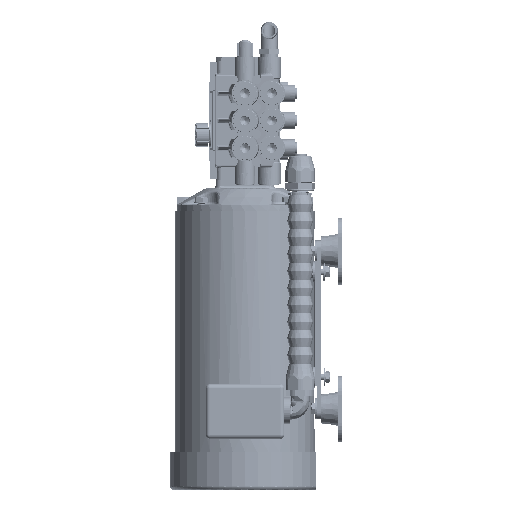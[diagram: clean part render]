
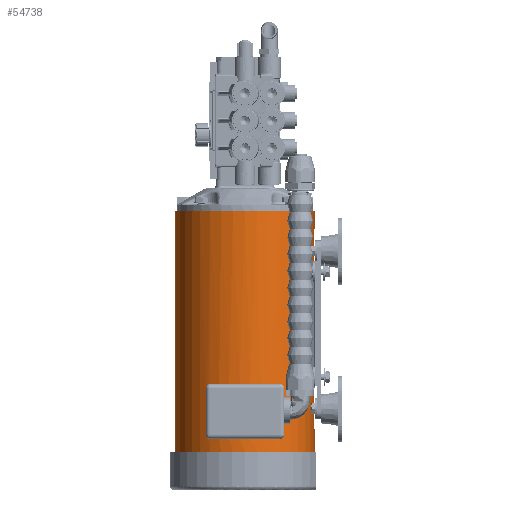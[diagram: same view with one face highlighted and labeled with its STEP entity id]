
A CAD part, left-side view. The second image highlights one B-rep face of the part: STEP entity #54738.
In plain terms, the highlighted cylindrical face has radius 84.074 mm (diameter 168.148 mm), a full revolution.
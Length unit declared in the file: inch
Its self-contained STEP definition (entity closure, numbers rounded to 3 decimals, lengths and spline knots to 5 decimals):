
#1548=B_SPLINE_CURVE_WITH_KNOTS($,3,(#81948,#81949,#81950,#81951,#81952,
#81953,#81954,#81955,#81956,#81957),.UNSPECIFIED.,.F.,.F.,(4,2,2,2,4),(-0.83662,
-0.60901,-0.3814,-0.1907,0.),
 .UNSPECIFIED.);
#1549=B_SPLINE_CURVE_WITH_KNOTS($,3,(#81961,#81962,#81963,#81964,#81965,
#81966,#81967,#81968,#81969,#81970),.UNSPECIFIED.,.F.,.F.,(4,2,2,2,4),(-3.31355,
-3.11351,-2.91347,-2.69511,-2.47675),
 .UNSPECIFIED.);
#1550=B_SPLINE_CURVE_WITH_KNOTS($,3,(#81974,#81975,#81976,#81977,#81978,
#81979,#81980,#81981,#81982,#81983),.UNSPECIFIED.,.F.,.F.,(4,2,2,2,4),(-2.49351,
-2.2659,-2.03829,-1.84759,-1.65689),
 .UNSPECIFIED.);
#1551=B_SPLINE_CURVE_WITH_KNOTS($,3,(#81986,#81987,#81988,#81989,#81990,
#81991,#81992,#81993,#81994,#81995),.UNSPECIFIED.,.F.,.F.,(4,2,2,2,4),(-1.65666,
-1.46596,-1.27526,-1.04765,-0.82004),
 .UNSPECIFIED.);
#3612=FACE_BOUND($,#14386,.T.);
#3613=FACE_BOUND($,#14387,.T.);
#3614=FACE_BOUND($,#14388,.T.);
#3615=FACE_BOUND($,#14389,.T.);
#4673=LINE($,#81959,#7783);
#4674=LINE($,#81985,#7784);
#4675=LINE($,#82004,#7785);
#4676=LINE($,#82007,#7786);
#7783=VECTOR($,#65220,2.2);
#7784=VECTOR($,#65223,2.2);
#7785=VECTOR($,#65230,5.94);
#7786=VECTOR($,#65233,5.94);
#14386=EDGE_LOOP($,(#34947,#34948,#34949,#34950,#34951,#34952,#34953,#34954));
#14387=EDGE_LOOP($,(#34955));
#14388=EDGE_LOOP($,(#34956));
#14389=EDGE_LOOP($,(#34957,#34958,#34959,#34960));
#18938=CIRCLE($,#58398,3.31);
#18939=CIRCLE($,#58399,3.31);
#18940=CIRCLE($,#58400,3.31);
#18941=CIRCLE($,#58401,3.31);
#18942=CIRCLE($,#58402,3.31);
#18943=CIRCLE($,#58403,3.31);
#22261=VERTEX_POINT($,#81944);
#22262=VERTEX_POINT($,#81945);
#22263=VERTEX_POINT($,#81947);
#22264=VERTEX_POINT($,#81958);
#22265=VERTEX_POINT($,#81960);
#22266=VERTEX_POINT($,#81971);
#22267=VERTEX_POINT($,#81973);
#22268=VERTEX_POINT($,#81984);
#22269=VERTEX_POINT($,#81996);
#22270=VERTEX_POINT($,#81998);
#22271=VERTEX_POINT($,#82000);
#22272=VERTEX_POINT($,#82001);
#22273=VERTEX_POINT($,#82003);
#22274=VERTEX_POINT($,#82005);
#27334=EDGE_CURVE($,#22261,#22262,#18938,.T.);
#27335=EDGE_CURVE($,#22262,#22263,#1548,.T.);
#27336=EDGE_CURVE($,#22263,#22264,#4673,.T.);
#27337=EDGE_CURVE($,#22264,#22265,#1549,.T.);
#27338=EDGE_CURVE($,#22265,#22266,#18939,.T.);
#27339=EDGE_CURVE($,#22266,#22267,#1550,.T.);
#27340=EDGE_CURVE($,#22267,#22268,#4674,.F.);
#27341=EDGE_CURVE($,#22268,#22261,#1551,.T.);
#27342=EDGE_CURVE($,#22269,#22269,#18940,.T.);
#27343=EDGE_CURVE($,#22270,#22270,#18941,.T.);
#27344=EDGE_CURVE($,#22271,#22272,#18942,.T.);
#27345=EDGE_CURVE($,#22271,#22273,#4675,.T.);
#27346=EDGE_CURVE($,#22273,#22274,#18943,.T.);
#27347=EDGE_CURVE($,#22272,#22274,#4676,.T.);
#34947=ORIENTED_EDGE($,*,*,#27334,.T.);
#34948=ORIENTED_EDGE($,*,*,#27335,.T.);
#34949=ORIENTED_EDGE($,*,*,#27336,.T.);
#34950=ORIENTED_EDGE($,*,*,#27337,.T.);
#34951=ORIENTED_EDGE($,*,*,#27338,.T.);
#34952=ORIENTED_EDGE($,*,*,#27339,.T.);
#34953=ORIENTED_EDGE($,*,*,#27340,.T.);
#34954=ORIENTED_EDGE($,*,*,#27341,.T.);
#34955=ORIENTED_EDGE($,*,*,#27342,.T.);
#34956=ORIENTED_EDGE($,*,*,#27343,.F.);
#34957=ORIENTED_EDGE($,*,*,#27344,.F.);
#34958=ORIENTED_EDGE($,*,*,#27345,.T.);
#34959=ORIENTED_EDGE($,*,*,#27346,.T.);
#34960=ORIENTED_EDGE($,*,*,#27347,.F.);
#50163=CYLINDRICAL_SURFACE($,#58397,3.31);
#54738=ADVANCED_FACE($,(#3612,#3613,#3614,#3615),#50163,.T.);
#58397=AXIS2_PLACEMENT_3D($,#81943,#65216,#65217);
#58398=AXIS2_PLACEMENT_3D($,#81946,#65218,#65219);
#58399=AXIS2_PLACEMENT_3D($,#81972,#65221,#65222);
#58400=AXIS2_PLACEMENT_3D($,#81997,#65224,#65225);
#58401=AXIS2_PLACEMENT_3D($,#81999,#65226,#65227);
#58402=AXIS2_PLACEMENT_3D($,#82002,#65228,#65229);
#58403=AXIS2_PLACEMENT_3D($,#82006,#65231,#65232);
#65216=DIRECTION('center_axis',(0.,0.,-1.));
#65217=DIRECTION('ref_axis',(-1.,0.,0.));
#65218=DIRECTION('center_axis',(0.,0.,1.));
#65219=DIRECTION('ref_axis',(0.,-1.,0.));
#65220=DIRECTION($,(0.,0.,-1.));
#65221=DIRECTION('center_axis',(0.,0.,-1.));
#65222=DIRECTION('ref_axis',(0.,1.,0.));
#65223=DIRECTION($,(0.,0.,-1.));
#65224=DIRECTION('center_axis',(0.,0.,1.));
#65225=DIRECTION('ref_axis',(1.,0.,0.));
#65226=DIRECTION('center_axis',(0.,0.,1.));
#65227=DIRECTION('ref_axis',(1.,0.,0.));
#65228=DIRECTION('center_axis',(0.,0.,-1.));
#65229=DIRECTION('ref_axis',(-1.,0.,0.));
#65230=DIRECTION($,(0.,0.,-1.));
#65231=DIRECTION('center_axis',(0.,0.,-1.));
#65232=DIRECTION('ref_axis',(-1.,0.,0.));
#65233=DIRECTION($,(0.,0.,-1.));
#81943=CARTESIAN_POINT('Origin',(0.,0.,11.95));
#81944=CARTESIAN_POINT('',(-2.8549,1.675,3.7425));
#81945=CARTESIAN_POINT('',(-2.8549,-1.675,3.7425));
#81946=CARTESIAN_POINT('Origin',(0.,0.,3.7425));
#81947=CARTESIAN_POINT('',(-2.72772,-1.875,3.5425));
#81948=CARTESIAN_POINT('Ctrl Pts',(-2.8549,-1.675,3.7425));
#81949=CARTESIAN_POINT('Ctrl Pts',(-2.83979,-1.70076,
3.7425));
#81950=CARTESIAN_POINT('Ctrl Pts',(-2.82316,-1.72822,
3.73726));
#81951=CARTESIAN_POINT('Ctrl Pts',(-2.79142,-1.77904,
3.71553));
#81952=CARTESIAN_POINT('Ctrl Pts',(-2.77631,-1.80242,3.69905));
#81953=CARTESIAN_POINT('Ctrl Pts',(-2.75377,-1.83662,
3.6625));
#81954=CARTESIAN_POINT('Ctrl Pts',(-2.74423,-1.8508,
3.64125));
#81955=CARTESIAN_POINT('Ctrl Pts',(-2.73118,-1.87,
3.59378));
#81956=CARTESIAN_POINT('Ctrl Pts',(-2.72772,-1.875,3.56753));
#81957=CARTESIAN_POINT('Ctrl Pts',(-2.72772,-1.875,3.5425));
#81958=CARTESIAN_POINT('',(-2.72772,-1.875,1.3425));
#81959=CARTESIAN_POINT($,(-2.72772,-1.875,3.5425));
#81960=CARTESIAN_POINT('',(-2.8549,-1.675,1.1425));
#81961=CARTESIAN_POINT('Ctrl Pts',(-2.72772,-1.875,1.3425));
#81962=CARTESIAN_POINT('Ctrl Pts',(-2.72772,-1.875,1.31625));
#81963=CARTESIAN_POINT('Ctrl Pts',(-2.73152,-1.86951,
1.28885));
#81964=CARTESIAN_POINT('Ctrl Pts',(-2.7457,-1.84862,
1.2397));
#81965=CARTESIAN_POINT('Ctrl Pts',(-2.75602,-1.83326,
1.21792));
#81966=CARTESIAN_POINT('Ctrl Pts',(-2.77914,-1.79804,1.1827));
#81967=CARTESIAN_POINT('Ctrl Pts',(-2.7938,-1.77527,
1.16743));
#81968=CARTESIAN_POINT('Ctrl Pts',(-2.82444,-1.72612,
1.14733));
#81969=CARTESIAN_POINT('Ctrl Pts',(-2.8404,-1.69972,
1.1425));
#81970=CARTESIAN_POINT('Ctrl Pts',(-2.8549,-1.675,1.1425));
#81971=CARTESIAN_POINT('',(-2.8549,1.675,1.1425));
#81972=CARTESIAN_POINT('Origin',(0.,0.,1.1425));
#81973=CARTESIAN_POINT('',(-2.72772,1.875,1.3425));
#81974=CARTESIAN_POINT('Ctrl Pts',(-2.8549,1.675,1.1425));
#81975=CARTESIAN_POINT('Ctrl Pts',(-2.83979,1.70076,1.1425));
#81976=CARTESIAN_POINT('Ctrl Pts',(-2.82316,1.72822,1.14774));
#81977=CARTESIAN_POINT('Ctrl Pts',(-2.79142,1.77904,1.16947));
#81978=CARTESIAN_POINT('Ctrl Pts',(-2.77631,1.80242,1.18595));
#81979=CARTESIAN_POINT('Ctrl Pts',(-2.75377,1.83662,1.2225));
#81980=CARTESIAN_POINT('Ctrl Pts',(-2.74423,1.8508,1.24375));
#81981=CARTESIAN_POINT('Ctrl Pts',(-2.73118,1.87,1.29122));
#81982=CARTESIAN_POINT('Ctrl Pts',(-2.72772,1.875,1.31747));
#81983=CARTESIAN_POINT('Ctrl Pts',(-2.72772,1.875,1.3425));
#81984=CARTESIAN_POINT('',(-2.72772,1.875,3.5425));
#81985=CARTESIAN_POINT($,(-2.72772,1.875,3.5425));
#81986=CARTESIAN_POINT('Ctrl Pts',(-2.72772,1.875,3.5425));
#81987=CARTESIAN_POINT('Ctrl Pts',(-2.72772,1.875,3.56753));
#81988=CARTESIAN_POINT('Ctrl Pts',(-2.73118,1.87,3.59378));
#81989=CARTESIAN_POINT('Ctrl Pts',(-2.74423,1.8508,3.64125));
#81990=CARTESIAN_POINT('Ctrl Pts',(-2.75377,1.83662,3.6625));
#81991=CARTESIAN_POINT('Ctrl Pts',(-2.77631,1.80242,3.69905));
#81992=CARTESIAN_POINT('Ctrl Pts',(-2.79142,1.77904,3.71553));
#81993=CARTESIAN_POINT('Ctrl Pts',(-2.82316,1.72822,3.73726));
#81994=CARTESIAN_POINT('Ctrl Pts',(-2.83979,1.70076,3.7425));
#81995=CARTESIAN_POINT('Ctrl Pts',(-2.8549,1.675,3.7425));
#81996=CARTESIAN_POINT('',(3.31,0.,0.5));
#81997=CARTESIAN_POINT('Origin',(0.,0.,0.5));
#81998=CARTESIAN_POINT('',(3.31,0.,11.95));
#81999=CARTESIAN_POINT('Origin',(0.,0.,11.95));
#82000=CARTESIAN_POINT('',(1.67444,-2.85523,9.575));
#82001=CARTESIAN_POINT('',(-1.67444,-2.85523,9.575));
#82002=CARTESIAN_POINT('Origin',(0.,0.,9.575));
#82003=CARTESIAN_POINT('',(1.67444,-2.85523,3.635));
#82004=CARTESIAN_POINT($,(1.67444,-2.85523,9.575));
#82005=CARTESIAN_POINT('',(-1.67444,-2.85523,3.635));
#82006=CARTESIAN_POINT('Origin',(0.,0.,3.635));
#82007=CARTESIAN_POINT($,(-1.67444,-2.85523,9.575));
